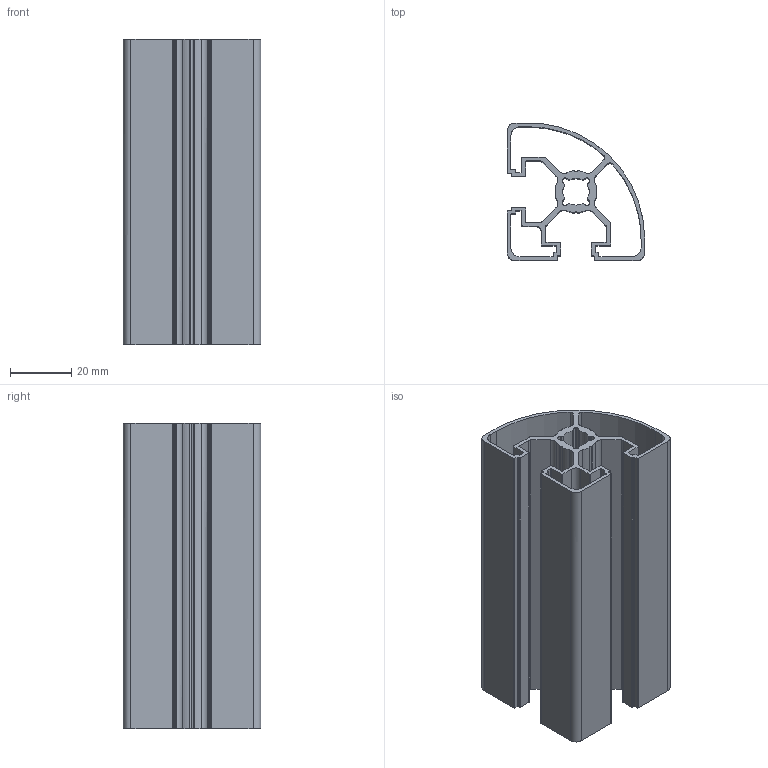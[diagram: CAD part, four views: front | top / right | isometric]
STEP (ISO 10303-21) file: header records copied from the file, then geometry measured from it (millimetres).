
FILE_DESCRIPTION (( 'STEP AP203' ), '1' );
FILE_NAME ('45x45 Radius Sigma Profile.STEP', '2022-01-31T16:28:21', ( '' ), ( '' ), 'SwSTEP 2.0', 'SolidWorks 2018', '' );
FILE_SCHEMA (( 'CONFIG_CONTROL_DESIGN' ));
Length unit declared in the file: millimetre
Products named in the file (1): 45x45 Radius Sigma Profile
Bounding box: 45 x 45 x 100 mm (x, y, z)
Volume: 38475.4 mm3; surface area: 52867.2 mm2
Topology: 1 solids, 1 shells, 190 faces, 564 edges, 376 vertices
Faces by surface type: bspline 190
Entity records: 6659 total; most frequent: CARTESIAN_POINT 3401, ORIENTED_EDGE 1128, EDGE_CURVE 564, B_SPLINE_CURVE_WITH_KNOTS 446, VERTEX_POINT 376, EDGE_LOOP 198, ADVANCED_FACE 190, FACE_OUTER_BOUND 190
